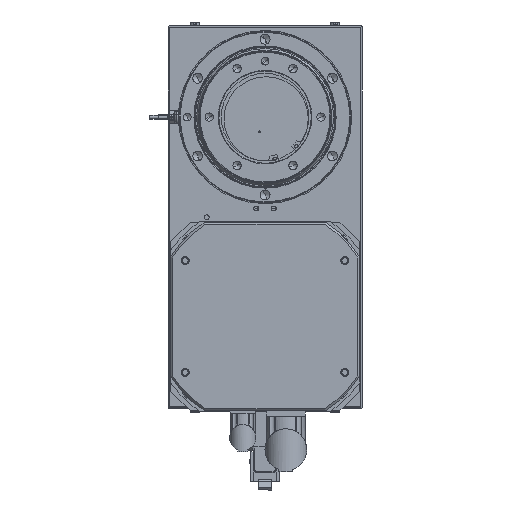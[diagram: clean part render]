
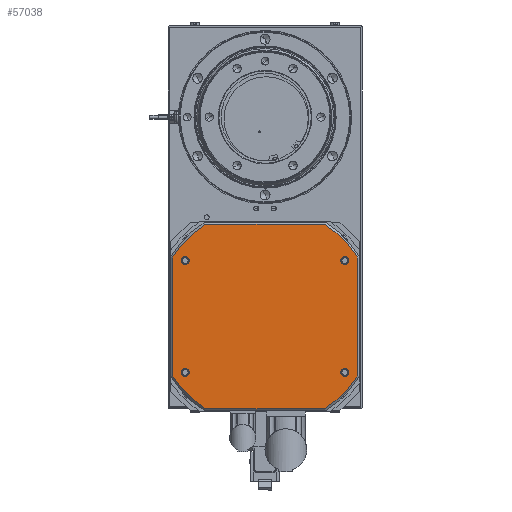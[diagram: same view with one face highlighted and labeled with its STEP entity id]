
A CAD part, front view. The second image highlights one B-rep face of the part: STEP entity #57038.
In plain terms, the highlighted planar face has unit normal (0, -1, 0).
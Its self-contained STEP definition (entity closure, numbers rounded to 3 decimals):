
#237 = EDGE_CURVE ( 'NONE', #51705, #6755, #67134, .T. ) ;
#936 = CARTESIAN_POINT ( 'NONE',  ( 17.75, 422., -241.25 ) ) ;
#990 = DIRECTION ( 'NONE',  ( 0., 1., 0. ) ) ;
#1389 = EDGE_CURVE ( 'NONE', #66752, #39401, #25241, .T. ) ;
#1706 = FACE_BOUND ( 'NONE', #43686, .T. ) ;
#1767 = AXIS2_PLACEMENT_3D ( 'NONE', #49110, #43505, #65036 ) ;
#1885 = EDGE_LOOP ( 'NONE', ( #49185, #18132 ) ) ;
#3094 = VERTEX_POINT ( 'NONE', #10092 ) ;
#3184 = VECTOR ( 'NONE', #4197, 1000. ) ;
#3208 = VERTEX_POINT ( 'NONE', #66509 ) ;
#3555 = EDGE_CURVE ( 'NONE', #18751, #3094, #47384, .T. ) ;
#3705 = CIRCLE ( 'NONE', #59065, 4. ) ;
#3778 = LINE ( 'NONE', #42650, #61363 ) ;
#4197 = DIRECTION ( 'NONE',  ( 1., 0., 0. ) ) ;
#4844 = DIRECTION ( 'NONE',  ( 0., -1., 0. ) ) ;
#4846 = EDGE_CURVE ( 'NONE', #26273, #48494, #13665, .T. ) ;
#6098 = AXIS2_PLACEMENT_3D ( 'NONE', #16171, #69144, #64852 ) ;
#6272 = EDGE_CURVE ( 'NONE', #7783, #67336, #19948, .T. ) ;
#6755 = VERTEX_POINT ( 'NONE', #13648 ) ;
#6844 = DIRECTION ( 'NONE',  ( 0., 0., 1. ) ) ;
#6960 = CARTESIAN_POINT ( 'NONE',  ( 17.75, 422., -241.25 ) ) ;
#7065 = CARTESIAN_POINT ( 'NONE',  ( 160.908, 422., -203.75 ) ) ;
#7130 = CARTESIAN_POINT ( 'NONE',  ( 17.75, 422., -352.25 ) ) ;
#7783 = VERTEX_POINT ( 'NONE', #37868 ) ;
#8236 = DIRECTION ( 'NONE',  ( 0., 0., 1. ) ) ;
#8410 = DIRECTION ( 'NONE',  ( 0., -1., 0. ) ) ;
#8861 = EDGE_CURVE ( 'NONE', #44976, #3208, #12591, .T. ) ;
#9097 = CARTESIAN_POINT ( 'NONE',  ( 97.207, 422., -296.207 ) ) ;
#10092 = CARTESIAN_POINT ( 'NONE',  ( 38.592, 422., -393.75 ) ) ;
#12134 = VERTEX_POINT ( 'NONE', #56988 ) ;
#12297 = EDGE_CURVE ( 'NONE', #17383, #20376, #28054, .T. ) ;
#12535 = CARTESIAN_POINT ( 'NONE',  ( 102.293, 422., -296.207 ) ) ;
#12591 = CIRCLE ( 'NONE', #67840, 4. ) ;
#12621 = ORIENTED_EDGE ( 'NONE', *, *, #27801, .T. ) ;
#13038 = CARTESIAN_POINT ( 'NONE',  ( 97.207, 422., -296.207 ) ) ;
#13648 = CARTESIAN_POINT ( 'NONE',  ( 4.75, 422., -237.592 ) ) ;
#13665 = CIRCLE ( 'NONE', #26114, 116.5 ) ;
#13920 = DIRECTION ( 'NONE',  ( 0., 0., -1. ) ) ;
#13995 = EDGE_LOOP ( 'NONE', ( #20647, #64305 ) ) ;
#15063 = DIRECTION ( 'NONE',  ( 0., 0., 1. ) ) ;
#16123 = DIRECTION ( 'NONE',  ( 0., -1., 0. ) ) ;
#16171 = CARTESIAN_POINT ( 'NONE',  ( 181.75, 422., -241.25 ) ) ;
#16210 = ORIENTED_EDGE ( 'NONE', *, *, #24531, .F. ) ;
#16994 = AXIS2_PLACEMENT_3D ( 'NONE', #12535, #60561, #6844 ) ;
#17383 = VERTEX_POINT ( 'NONE', #67628 ) ;
#17427 = EDGE_CURVE ( 'NONE', #67336, #7783, #3705, .T. ) ;
#17865 = DIRECTION ( 'NONE',  ( 0., -1., 0. ) ) ;
#18132 = ORIENTED_EDGE ( 'NONE', *, *, #39153, .F. ) ;
#18751 = VERTEX_POINT ( 'NONE', #63823 ) ;
#18761 = FACE_BOUND ( 'NONE', #1885, .T. ) ;
#18773 = LINE ( 'NONE', #40271, #32415 ) ;
#19948 = CIRCLE ( 'NONE', #1767, 4. ) ;
#20376 = VERTEX_POINT ( 'NONE', #35561 ) ;
#20647 = ORIENTED_EDGE ( 'NONE', *, *, #17427, .F. ) ;
#21468 = CARTESIAN_POINT ( 'NONE',  ( 102.293, 422., -301.293 ) ) ;
#23006 = FACE_BOUND ( 'NONE', #37054, .T. ) ;
#24342 = AXIS2_PLACEMENT_3D ( 'NONE', #21468, #16123, #15063 ) ;
#24531 = EDGE_CURVE ( 'NONE', #20376, #17383, #63930, .T. ) ;
#24585 = ORIENTED_EDGE ( 'NONE', *, *, #12297, .F. ) ;
#25213 = AXIS2_PLACEMENT_3D ( 'NONE', #44986, #17865, #66866 ) ;
#25241 = CIRCLE ( 'NONE', #29742, 116.5 ) ;
#25598 = CARTESIAN_POINT ( 'NONE',  ( 160.908, 422., -393.75 ) ) ;
#25800 = CARTESIAN_POINT ( 'NONE',  ( 97.207, 422., -393.75 ) ) ;
#26114 = AXIS2_PLACEMENT_3D ( 'NONE', #9097, #8410, #52543 ) ;
#26116 = DIRECTION ( 'NONE',  ( 0., 0., 1. ) ) ;
#26273 = VERTEX_POINT ( 'NONE', #25598 ) ;
#27801 = EDGE_CURVE ( 'NONE', #39401, #51705, #18773, .T. ) ;
#28054 = CIRCLE ( 'NONE', #49395, 4. ) ;
#28191 = ORIENTED_EDGE ( 'NONE', *, *, #40184, .F. ) ;
#28265 = DIRECTION ( 'NONE',  ( 0., 0., 1. ) ) ;
#28611 = FACE_OUTER_BOUND ( 'NONE', #45688, .T. ) ;
#28919 = DIRECTION ( 'NONE',  ( 0., -1., 0. ) ) ;
#29512 = ORIENTED_EDGE ( 'NONE', *, *, #3555, .T. ) ;
#29700 = CARTESIAN_POINT ( 'NONE',  ( 194.75, 422., -237.592 ) ) ;
#29742 = AXIS2_PLACEMENT_3D ( 'NONE', #45556, #34979, #40979 ) ;
#31772 = DIRECTION ( 'NONE',  ( 0., -1., 0. ) ) ;
#31857 = CARTESIAN_POINT ( 'NONE',  ( 17.75, 422., -356.25 ) ) ;
#32329 = AXIS2_PLACEMENT_3D ( 'NONE', #936, #31772, #44084 ) ;
#32415 = VECTOR ( 'NONE', #51161, 1000. ) ;
#34979 = DIRECTION ( 'NONE',  ( 0., -1., 0. ) ) ;
#35500 = ORIENTED_EDGE ( 'NONE', *, *, #69119, .T. ) ;
#35561 = CARTESIAN_POINT ( 'NONE',  ( 17.75, 422., -245.25 ) ) ;
#36120 = ORIENTED_EDGE ( 'NONE', *, *, #1389, .T. ) ;
#36653 = CIRCLE ( 'NONE', #6098, 4. ) ;
#37054 = EDGE_LOOP ( 'NONE', ( #63817, #28191 ) ) ;
#37868 = CARTESIAN_POINT ( 'NONE',  ( 17.75, 422., -360.25 ) ) ;
#39153 = EDGE_CURVE ( 'NONE', #3208, #44976, #36653, .T. ) ;
#39392 = ORIENTED_EDGE ( 'NONE', *, *, #237, .T. ) ;
#39401 = VERTEX_POINT ( 'NONE', #7065 ) ;
#39895 = FACE_BOUND ( 'NONE', #13995, .T. ) ;
#40184 = EDGE_CURVE ( 'NONE', #12134, #66157, #40326, .T. ) ;
#40271 = CARTESIAN_POINT ( 'NONE',  ( 97.207, 422., -203.75 ) ) ;
#40326 = CIRCLE ( 'NONE', #67382, 4. ) ;
#40979 = DIRECTION ( 'NONE',  ( 0., 0., 1. ) ) ;
#41167 = ORIENTED_EDGE ( 'NONE', *, *, #61118, .T. ) ;
#42109 = DIRECTION ( 'NONE',  ( 0., -1., 0. ) ) ;
#42294 = DIRECTION ( 'NONE',  ( 0., 0., 1. ) ) ;
#42650 = CARTESIAN_POINT ( 'NONE',  ( 194.75, 422., -296.207 ) ) ;
#42697 = LINE ( 'NONE', #25800, #3184 ) ;
#43505 = DIRECTION ( 'NONE',  ( 0., -1., 0. ) ) ;
#43686 = EDGE_LOOP ( 'NONE', ( #24585, #16210 ) ) ;
#44084 = DIRECTION ( 'NONE',  ( 0., 0., 1. ) ) ;
#44523 = AXIS2_PLACEMENT_3D ( 'NONE', #13038, #990, #28265 ) ;
#44551 = ORIENTED_EDGE ( 'NONE', *, *, #4846, .T. ) ;
#44976 = VERTEX_POINT ( 'NONE', #66091 ) ;
#44986 = CARTESIAN_POINT ( 'NONE',  ( 181.75, 422., -356.25 ) ) ;
#45092 = LINE ( 'NONE', #61332, #67697 ) ;
#45556 = CARTESIAN_POINT ( 'NONE',  ( 97.207, 422., -301.293 ) ) ;
#45688 = EDGE_LOOP ( 'NONE', ( #29512, #35500, #44551, #68900, #36120, #12621, #39392, #41167 ) ) ;
#47384 = CIRCLE ( 'NONE', #16994, 116.5 ) ;
#48390 = DIRECTION ( 'NONE',  ( 0., 0., 1. ) ) ;
#48494 = VERTEX_POINT ( 'NONE', #67361 ) ;
#49110 = CARTESIAN_POINT ( 'NONE',  ( 17.75, 422., -356.25 ) ) ;
#49185 = ORIENTED_EDGE ( 'NONE', *, *, #8861, .F. ) ;
#49355 = DIRECTION ( 'NONE',  ( 0., 0., 1. ) ) ;
#49395 = AXIS2_PLACEMENT_3D ( 'NONE', #6960, #28919, #49355 ) ;
#49807 = CARTESIAN_POINT ( 'NONE',  ( 38.592, 422., -203.75 ) ) ;
#51161 = DIRECTION ( 'NONE',  ( -1., 0., 0. ) ) ;
#51465 = EDGE_CURVE ( 'NONE', #66157, #12134, #55655, .T. ) ;
#51474 = CARTESIAN_POINT ( 'NONE',  ( 181.75, 422., -352.25 ) ) ;
#51659 = DIRECTION ( 'NONE',  ( 0., -1., 0. ) ) ;
#51705 = VERTEX_POINT ( 'NONE', #49807 ) ;
#52380 = EDGE_CURVE ( 'NONE', #48494, #66752, #3778, .T. ) ;
#52543 = DIRECTION ( 'NONE',  ( 0., 0., 1. ) ) ;
#55655 = CIRCLE ( 'NONE', #25213, 4. ) ;
#56318 = CARTESIAN_POINT ( 'NONE',  ( 181.75, 422., -241.25 ) ) ;
#56988 = CARTESIAN_POINT ( 'NONE',  ( 181.75, 422., -360.25 ) ) ;
#57038 = ADVANCED_FACE ( 'NONE', ( #28611, #23006, #1706, #18761, #39895 ), #61413, .F. ) ;
#59065 = AXIS2_PLACEMENT_3D ( 'NONE', #31857, #42109, #48390 ) ;
#60561 = DIRECTION ( 'NONE',  ( 0., -1., 0. ) ) ;
#61118 = EDGE_CURVE ( 'NONE', #6755, #18751, #45092, .T. ) ;
#61332 = CARTESIAN_POINT ( 'NONE',  ( 4.75, 422., -296.207 ) ) ;
#61363 = VECTOR ( 'NONE', #42294, 1000. ) ;
#61413 = PLANE ( 'NONE',  #44523 ) ;
#63157 = CARTESIAN_POINT ( 'NONE',  ( 181.75, 422., -356.25 ) ) ;
#63817 = ORIENTED_EDGE ( 'NONE', *, *, #51465, .F. ) ;
#63823 = CARTESIAN_POINT ( 'NONE',  ( 4.75, 422., -359.908 ) ) ;
#63930 = CIRCLE ( 'NONE', #32329, 4. ) ;
#64305 = ORIENTED_EDGE ( 'NONE', *, *, #6272, .F. ) ;
#64852 = DIRECTION ( 'NONE',  ( 0., 0., 1. ) ) ;
#65036 = DIRECTION ( 'NONE',  ( 0., 0., 1. ) ) ;
#66091 = CARTESIAN_POINT ( 'NONE',  ( 181.75, 422., -237.25 ) ) ;
#66157 = VERTEX_POINT ( 'NONE', #51474 ) ;
#66509 = CARTESIAN_POINT ( 'NONE',  ( 181.75, 422., -245.25 ) ) ;
#66752 = VERTEX_POINT ( 'NONE', #29700 ) ;
#66866 = DIRECTION ( 'NONE',  ( 0., 0., 1. ) ) ;
#67134 = CIRCLE ( 'NONE', #24342, 116.5 ) ;
#67336 = VERTEX_POINT ( 'NONE', #7130 ) ;
#67361 = CARTESIAN_POINT ( 'NONE',  ( 194.75, 422., -359.908 ) ) ;
#67382 = AXIS2_PLACEMENT_3D ( 'NONE', #63157, #4844, #26116 ) ;
#67628 = CARTESIAN_POINT ( 'NONE',  ( 17.75, 422., -237.25 ) ) ;
#67697 = VECTOR ( 'NONE', #13920, 1000. ) ;
#67840 = AXIS2_PLACEMENT_3D ( 'NONE', #56318, #51659, #8236 ) ;
#68900 = ORIENTED_EDGE ( 'NONE', *, *, #52380, .T. ) ;
#69119 = EDGE_CURVE ( 'NONE', #3094, #26273, #42697, .T. ) ;
#69144 = DIRECTION ( 'NONE',  ( 0., -1., 0. ) ) ;
